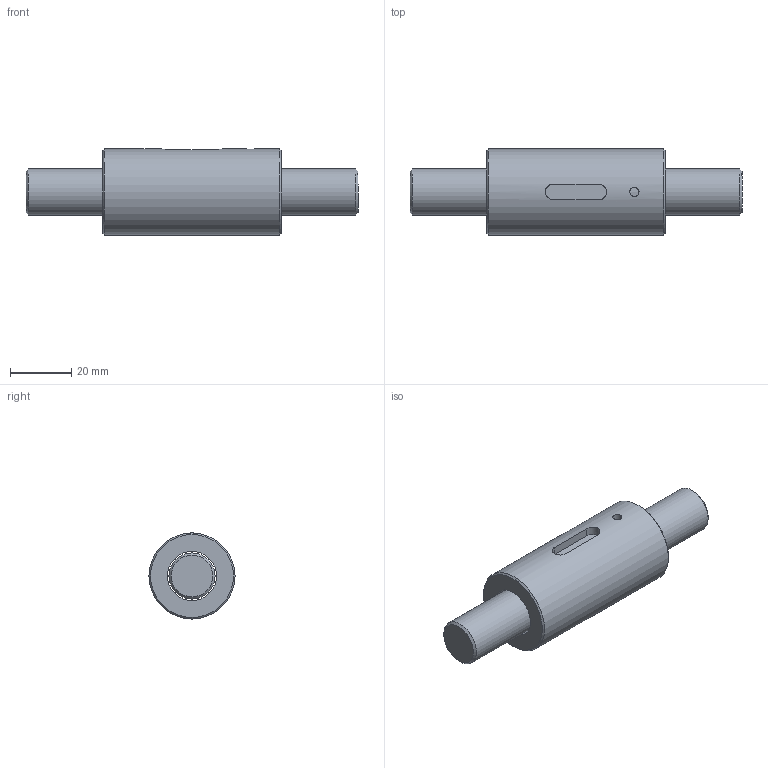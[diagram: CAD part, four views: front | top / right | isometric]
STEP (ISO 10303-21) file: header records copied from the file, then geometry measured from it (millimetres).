
FILE_DESCRIPTION (( 'STEP AP203' ), '1' );
FILE_NAME ('SCNH1620.STEP', '2023-07-12T02:27:30', ( '' ), ( '' ), 'SwSTEP 2.0', 'SolidWorks 2022', '' );
FILE_SCHEMA (( 'CONFIG_CONTROL_DESIGN' ));
Length unit declared in the file: millimetre
Products named in the file (1): SCNH1620
Bounding box: 108 x 28 x 28 mm (x, y, z)
Volume: 42773 mm3; surface area: 14367.9 mm2
Topology: 2 solids, 2 shells, 18 faces, 37 edges, 24 vertices
Faces by surface type: plane 7, cylinder 5, cone 4, bspline 2
Full cylindrical faces by diameter (mm): 15 x1, 16 x1, 28 x1
Entity records: 868 total; most frequent: CARTESIAN_POINT 448, DIRECTION 68, ORIENTED_EDGE 56, EDGE_LOOP 30, AXIS2_PLACEMENT_3D 29, EDGE_CURVE 28, VERTEX_POINT 22, FACE_OUTER_BOUND 21
